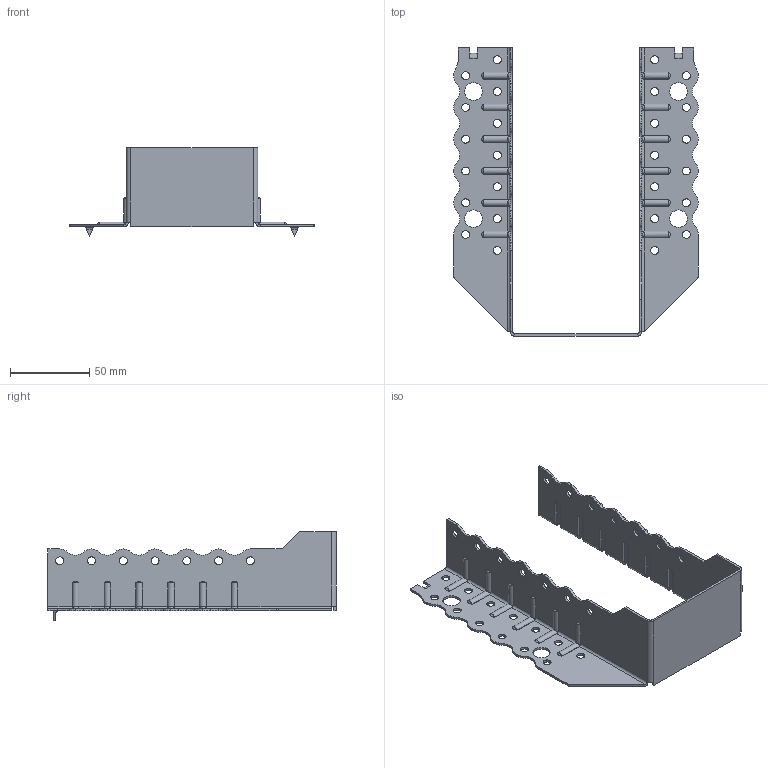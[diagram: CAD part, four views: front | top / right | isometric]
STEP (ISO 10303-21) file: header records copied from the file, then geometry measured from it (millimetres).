
FILE_DESCRIPTION (( 'STEP AP203' ), '1' );
FILE_NAME ('30627TOPK.STEP', '2021-04-08T15:02:07', ( '' ), ( '' ), 'SwSTEP 2.0', 'SolidWorks 2013', '' );
FILE_SCHEMA (( 'CONFIG_CONTROL_DESIGN' ));
Length unit declared in the file: millimetre
Products named in the file (1): 30627TOPK
Bounding box: 154 x 181.5 x 56 mm (x, y, z)
Volume: 41777.3 mm3; surface area: 59549.6 mm2
Topology: 1 solids, 1 shells, 496 faces, 1342 edges, 848 vertices
Faces by surface type: cylinder 315, plane 133, torus 24, bspline 24
Entity records: 18521 total; most frequent: CARTESIAN_POINT 5917, ORIENTED_EDGE 2684, DIRECTION 2582, EDGE_CURVE 1342, AXIS2_PLACEMENT_3D 943, VERTEX_POINT 848, LINE 696, VECTOR 696
